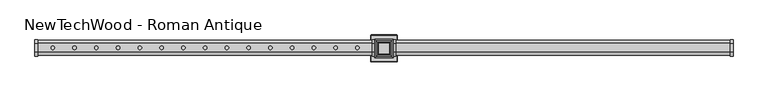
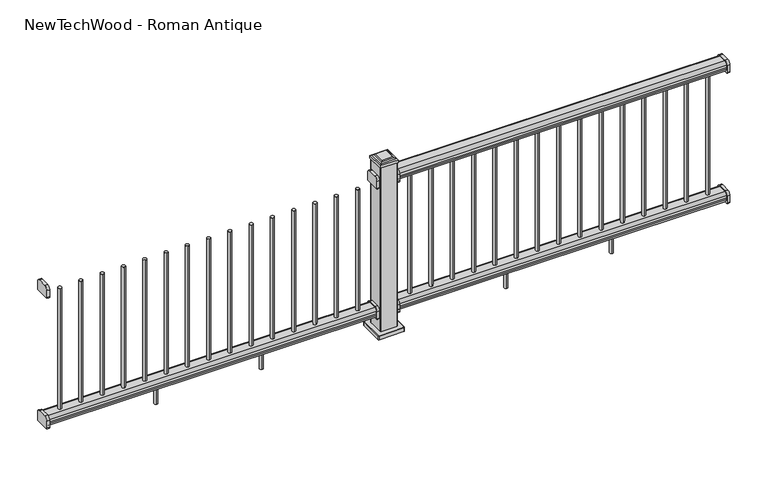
"""IFC4 building model written with IfcOpenShell, lengths in millimetres: railing geometry, NewTechWood - Roman Antique."""

from ifc_helpers import new_model, si_unit, point, frame, frame_2d, origin, place, context, project, spatial, polyline, circle_curve, ellipse_curve, trimmed, segment, composite_curve, outline, extrude, faceted_brep, source, transform, mapped, element, save
from ifc_brep_helpers import plane_surface, cylinder_surface, revolved_surface, advanced_brep


def newtechwood_roman_antique_b1c31fe7(model_context):
    return source(origin(), model_context, "Body", "SolidModel", [
        extrude(outline(composite_curve([segment(polyline([(11496.7392028, 160.1), (11546.1692028, 160.1)]), True, "CONTINUOUS"), segment(trimmed(circle_curve(frame_2d((11546.1692028, 140.42)), 19.68), [point((11546.1692028, 160.1))], [point((11565.8492028, 140.42))], False, "CARTESIAN"), True, "CONTINUOUS"), segment(polyline([(11565.8492028, 140.42), (11565.8492028, 98.95)]), True, "CONTINUOUS"), segment(trimmed(circle_curve(frame_2d((11562.2992028, 98.95)), 3.55), [point((11565.8492028, 98.95))], [point((11562.2992028, 95.4))], False, "CARTESIAN"), True, "CONTINUOUS"), segment(polyline([(11562.2992028, 95.4), (11480.6092028, 95.4)]), True, "CONTINUOUS"), segment(trimmed(circle_curve(frame_2d((11480.6092028, 98.95)), 3.55), [point((11480.6092028, 95.4))], [point((11477.0592028, 98.95))], False, "CARTESIAN"), True, "CONTINUOUS"), segment(polyline([(11477.0592028, 98.95), (11477.0592028, 140.42)]), True, "CONTINUOUS"), segment(trimmed(circle_curve(frame_2d((11496.7392028, 140.42)), 19.68), [point((11477.0592028, 140.42))], [point((11496.7392028, 160.1))], False, "CARTESIAN"), True, "CONTINUOUS")], self_intersect=False)), frame((12576.7458255, 0.0, 0.0), z_axis=(1.0, 0.0, 0.0), x_axis=(0.0, 1.0, 0.0)), (0.0, 0.0, 1.0), 15.0),
        extrude(outline(composite_curve([segment(polyline([(11496.7392028, 160.1), (11546.1692028, 160.1)]), True, "CONTINUOUS"), segment(trimmed(circle_curve(frame_2d((11546.1692028, 140.42)), 19.68), [point((11546.1692028, 160.1))], [point((11565.8492028, 140.42))], False, "CARTESIAN"), True, "CONTINUOUS"), segment(polyline([(11565.8492028, 140.42), (11565.8492028, 98.95)]), True, "CONTINUOUS"), segment(trimmed(circle_curve(frame_2d((11562.2992028, 98.95)), 3.55), [point((11565.8492028, 98.95))], [point((11562.2992028, 95.4))], False, "CARTESIAN"), True, "CONTINUOUS"), segment(polyline([(11562.2992028, 95.4), (11480.6092028, 95.4)]), True, "CONTINUOUS"), segment(trimmed(circle_curve(frame_2d((11480.6092028, 98.95)), 3.55), [point((11480.6092028, 95.4))], [point((11477.0592028, 98.95))], False, "CARTESIAN"), True, "CONTINUOUS"), segment(polyline([(11477.0592028, 98.95), (11477.0592028, 140.42)]), True, "CONTINUOUS"), segment(trimmed(circle_curve(frame_2d((11496.7392028, 140.42)), 19.68), [point((11477.0592028, 140.42))], [point((11496.7392028, 160.1))], False, "CARTESIAN"), True, "CONTINUOUS")], self_intersect=False)), frame((14390.7458255, 0.0, 0.0), z_axis=(1.0, 0.0, 0.0), x_axis=(0.0, 1.0, 0.0)), (0.0, 0.0, 1.0), 15.0),
        extrude(outline(composite_curve([segment(trimmed(circle_curve(frame_2d((11546.1692028, 899.42)), 19.68), [point((11546.1692028, 919.1))], [point((11565.8492028, 899.42))], False, "CARTESIAN"), True, "CONTINUOUS"), segment(polyline([(11565.8492028, 899.42), (11565.8492028, 857.95)]), True, "CONTINUOUS"), segment(trimmed(circle_curve(frame_2d((11562.2992028, 857.95)), 3.55), [point((11565.8492028, 857.95))], [point((11562.2992028, 854.4))], False, "CARTESIAN"), True, "CONTINUOUS"), segment(polyline([(11562.2992028, 854.4), (11480.6092028, 854.4)]), True, "CONTINUOUS"), segment(trimmed(circle_curve(frame_2d((11480.6092028, 857.95)), 3.55), [point((11480.6092028, 854.4))], [point((11477.0592028, 857.95))], False, "CARTESIAN"), True, "CONTINUOUS"), segment(polyline([(11477.0592028, 857.95), (11477.0592028, 899.42)]), True, "CONTINUOUS"), segment(trimmed(circle_curve(frame_2d((11496.7392028, 899.42)), 19.68), [point((11477.0592028, 899.42))], [point((11496.7392028, 919.1))], False, "CARTESIAN"), True, "CONTINUOUS"), segment(polyline([(11496.7392028, 919.1), (11546.1692028, 919.1)]), True, "CONTINUOUS")], self_intersect=False)), frame((12576.7458255, 0.0, 0.0), z_axis=(1.0, 0.0, 0.0), x_axis=(0.0, 1.0, 0.0)), (0.0, 0.0, 1.0), 15.0),
        extrude(outline(composite_curve([segment(trimmed(circle_curve(frame_2d((11546.1692028, 899.42)), 19.68), [point((11546.1692028, 919.1))], [point((11565.8492028, 899.42))], False, "CARTESIAN"), True, "CONTINUOUS"), segment(polyline([(11565.8492028, 899.42), (11565.8492028, 857.95)]), True, "CONTINUOUS"), segment(trimmed(circle_curve(frame_2d((11562.2992028, 857.95)), 3.55), [point((11565.8492028, 857.95))], [point((11562.2992028, 854.4))], False, "CARTESIAN"), True, "CONTINUOUS"), segment(polyline([(11562.2992028, 854.4), (11480.6092028, 854.4)]), True, "CONTINUOUS"), segment(trimmed(circle_curve(frame_2d((11480.6092028, 857.95)), 3.55), [point((11480.6092028, 854.4))], [point((11477.0592028, 857.95))], False, "CARTESIAN"), True, "CONTINUOUS"), segment(polyline([(11477.0592028, 857.95), (11477.0592028, 899.42)]), True, "CONTINUOUS"), segment(trimmed(circle_curve(frame_2d((11496.7392028, 899.42)), 19.68), [point((11477.0592028, 899.42))], [point((11496.7392028, 919.1))], False, "CARTESIAN"), True, "CONTINUOUS"), segment(polyline([(11496.7392028, 919.1), (11546.1692028, 919.1)]), True, "CONTINUOUS")], self_intersect=False)), frame((14390.7458255, 0.0, 0.0), z_axis=(1.0, 0.0, 0.0), x_axis=(0.0, 1.0, 0.0)), (0.0, 0.0, 1.0), 15.0),
        advanced_brep(
        [(13201.745858, 11511.9542028, 127.5), (13201.745858, 11530.9542028, 127.5), (13192.245858, 11521.4542028, 127.5), (13201.745858, 11511.9542028, -0.0239603), (13201.745858, 11530.9542028, -0.0239603), (13192.245858, 11521.4542028, -0.0239603)],
        [
            (0, 1, circle_curve(frame((13201.745858, 11521.4542028, 127.5), z_axis=(0.0, 0.0, 1.0), x_axis=(0.0, 1.0, 0.0)), 9.5)),
            (1, 2, circle_curve(frame((13201.745858, 11521.4542028, 127.5), z_axis=(0.0, 0.0, 1.0), x_axis=(0.0, 1.0, 0.0)), 9.5)),
            (2, 0, circle_curve(frame((13201.745858, 11521.4542028, 127.5), z_axis=(0.0, 0.0, 1.0), x_axis=(0.0, 1.0, 0.0)), 9.5)),
            (0, 3),
            (3, 4, circle_curve(frame((13201.745858, 11521.4542028, -0.0239603), z_axis=(0.0, 0.0, 1.0), x_axis=(0.0, 1.0, 0.0)), 9.5)),
            (4, 1),
            (4, 5, circle_curve(frame((13201.745858, 11521.4542028, -0.0239603), z_axis=(0.0, 0.0, 1.0), x_axis=(0.0, 1.0, 0.0)), 9.5)),
            (5, 3, circle_curve(frame((13201.745858, 11521.4542028, -0.0239603), z_axis=(0.0, 0.0, 1.0), x_axis=(0.0, 1.0, 0.0)), 9.5)),
        ],
        [
            plane_surface(frame((13790.2457931, 11671.4542028, 127.5), z_axis=(0.0, 0.0, 1.0), x_axis=(0.0, -1.0, 0.0))),
            cylinder_surface(frame((13201.745858, 11521.4542028, -0.3192207), z_axis=(0.0, 0.0, 1.0), x_axis=(0.0, 1.0, 0.0)), 9.5),
            plane_surface(frame((13192.245858, 11671.4542028, -0.0239603), z_axis=(0.0, 0.0, -1.0), x_axis=(0.0, -1.0, 0.0))),
        ],
        [
            (0, [[1, 2, 3]]),
            (1, [[4, 5, 6, -1]]),
            (1, [[-4, -3, -2, -6, 7, 8]]),
            (2, [[-5, -8, -7]]),
        ],
    ),
        advanced_brep(
        [(13780.7457931, 11511.9542028, 127.5), (13790.2457931, 11521.4542028, 127.5), (13780.7457931, 11530.9542028, 127.5), (13780.7457931, 11511.9542028, -0.0102232), (13790.2457931, 11521.4542028, -0.0102232), (13780.7457931, 11530.9542028, -0.0102232)],
        [
            (0, 1, circle_curve(frame((13780.7457931, 11521.4542028, 127.5), z_axis=(0.0, 0.0, 1.0), x_axis=(0.0, 1.0, 0.0)), 9.5)),
            (1, 2, circle_curve(frame((13780.7457931, 11521.4542028, 127.5), z_axis=(0.0, 0.0, 1.0), x_axis=(0.0, 1.0, 0.0)), 9.5)),
            (2, 0, circle_curve(frame((13780.7457931, 11521.4542028, 127.5), z_axis=(0.0, 0.0, 1.0), x_axis=(0.0, 1.0, 0.0)), 9.5)),
            (0, 3),
            (3, 4, circle_curve(frame((13780.7457931, 11521.4542028, -0.0102232), z_axis=(0.0, 0.0, 1.0), x_axis=(0.0, 1.0, 0.0)), 9.5)),
            (4, 5, circle_curve(frame((13780.7457931, 11521.4542028, -0.0102232), z_axis=(0.0, 0.0, 1.0), x_axis=(0.0, 1.0, 0.0)), 9.5)),
            (5, 2),
            (5, 3, circle_curve(frame((13780.7457931, 11521.4542028, -0.0102232), z_axis=(0.0, 0.0, 1.0), x_axis=(0.0, 1.0, 0.0)), 9.5)),
        ],
        [
            plane_surface(frame((13790.2457931, 11671.4542028, 127.5), z_axis=(0.0, 0.0, 1.0), x_axis=(0.0, -1.0, 0.0))),
            cylinder_surface(frame((13780.7457931, 11521.4542028, 0.0), z_axis=(0.0, 0.0, 1.0), x_axis=(0.0, 1.0, 0.0)), 9.5),
            plane_surface(frame((13770.7457931, 11671.4542028, -0.0102232), z_axis=(0.0, 0.0, -1.0), x_axis=(0.0, -1.0, 0.0))),
        ],
        [
            (0, [[1, 2, 3]]),
            (1, [[4, 5, 6, 7, -2, -1]]),
            (1, [[-4, -3, -7, 8]]),
            (2, [[-5, -8, -6]]),
        ],
    ),
        extrude(outline(composite_curve([segment(trimmed(circle_curve(frame_2d((13140.5029684, 11521.4542028)), 9.6), [point((13140.5029684, 11531.0542028))], [point((13140.5029684, 11511.8542028))], False, "CARTESIAN"), True, "CONTINUOUS"), segment(trimmed(circle_curve(frame_2d((13140.5029684, 11521.4542028)), 9.6), [point((13140.5029684, 11511.8542028))], [point((13140.5029684, 11531.0542028))], False, "CARTESIAN"), True, "CONTINUOUS")], self_intersect=False)), frame((0.0, 0.0, 155.0), z_axis=(0.0, 0.0, 1.0), x_axis=(1.0, 0.0, 0.0)), (0.0, 0.0, 1.0), 704.1),
        extrude(outline(composite_curve([segment(trimmed(circle_curve(frame_2d((13257.4172541, 11521.4542028)), 9.6), [point((13257.4172541, 11531.0542028))], [point((13257.4172541, 11511.8542028))], False, "CARTESIAN"), True, "CONTINUOUS"), segment(trimmed(circle_curve(frame_2d((13257.4172541, 11521.4542028)), 9.6), [point((13257.4172541, 11511.8542028))], [point((13257.4172541, 11531.0542028))], False, "CARTESIAN"), True, "CONTINUOUS")], self_intersect=False)), frame((0.0, 0.0, 155.0), z_axis=(0.0, 0.0, 1.0), x_axis=(1.0, 0.0, 0.0)), (0.0, 0.0, 1.0), 704.1),
        extrude(outline(composite_curve([segment(trimmed(circle_curve(frame_2d((13374.3315398, 11521.4542028)), 9.6), [point((13374.3315398, 11531.0542028))], [point((13374.3315398, 11511.8542028))], False, "CARTESIAN"), True, "CONTINUOUS"), segment(trimmed(circle_curve(frame_2d((13374.3315398, 11521.4542028)), 9.6), [point((13374.3315398, 11511.8542028))], [point((13374.3315398, 11531.0542028))], False, "CARTESIAN"), True, "CONTINUOUS")], self_intersect=False)), frame((0.0, 0.0, 155.0), z_axis=(0.0, 0.0, 1.0), x_axis=(1.0, 0.0, 0.0)), (0.0, 0.0, 1.0), 704.1),
        extrude(outline(composite_curve([segment(trimmed(circle_curve(frame_2d((13491.2458255, 11521.4542028)), 9.6), [point((13491.2458255, 11531.0542028))], [point((13491.2458255, 11511.8542028))], False, "CARTESIAN"), True, "CONTINUOUS"), segment(trimmed(circle_curve(frame_2d((13491.2458255, 11521.4542028)), 9.6), [point((13491.2458255, 11511.8542028))], [point((13491.2458255, 11531.0542028))], False, "CARTESIAN"), True, "CONTINUOUS")], self_intersect=False)), frame((0.0, 0.0, 155.0), z_axis=(0.0, 0.0, 1.0), x_axis=(1.0, 0.0, 0.0)), (0.0, 0.0, 1.0), 704.1),
        extrude(outline(composite_curve([segment(trimmed(circle_curve(frame_2d((13608.1601112, 11521.4542028)), 9.6), [point((13608.1601112, 11531.0542028))], [point((13608.1601112, 11511.8542028))], False, "CARTESIAN"), True, "CONTINUOUS"), segment(trimmed(circle_curve(frame_2d((13608.1601112, 11521.4542028)), 9.6), [point((13608.1601112, 11511.8542028))], [point((13608.1601112, 11531.0542028))], False, "CARTESIAN"), True, "CONTINUOUS")], self_intersect=False)), frame((0.0, 0.0, 155.0), z_axis=(0.0, 0.0, 1.0), x_axis=(1.0, 0.0, 0.0)), (0.0, 0.0, 1.0), 704.1),
        extrude(outline(composite_curve([segment(trimmed(circle_curve(frame_2d((13725.0743969, 11521.4542028)), 9.6), [point((13725.0743969, 11531.0542028))], [point((13725.0743969, 11511.8542028))], False, "CARTESIAN"), True, "CONTINUOUS"), segment(trimmed(circle_curve(frame_2d((13725.0743969, 11521.4542028)), 9.6), [point((13725.0743969, 11511.8542028))], [point((13725.0743969, 11531.0542028))], False, "CARTESIAN"), True, "CONTINUOUS")], self_intersect=False)), frame((0.0, 0.0, 155.0), z_axis=(0.0, 0.0, 1.0), x_axis=(1.0, 0.0, 0.0)), (0.0, 0.0, 1.0), 704.1),
        extrude(outline(composite_curve([segment(trimmed(circle_curve(frame_2d((13841.9886827, 11521.4542028)), 9.6), [point((13841.9886827, 11531.0542028))], [point((13841.9886827, 11511.8542028))], False, "CARTESIAN"), True, "CONTINUOUS"), segment(trimmed(circle_curve(frame_2d((13841.9886827, 11521.4542028)), 9.6), [point((13841.9886827, 11511.8542028))], [point((13841.9886827, 11531.0542028))], False, "CARTESIAN"), True, "CONTINUOUS")], self_intersect=False)), frame((0.0, 0.0, 155.0), z_axis=(0.0, 0.0, 1.0), x_axis=(1.0, 0.0, 0.0)), (0.0, 0.0, 1.0), 704.1),
        extrude(outline(composite_curve([segment(trimmed(circle_curve(frame_2d((12672.8458255, 11521.4542028)), 9.6), [point((12672.8458255, 11531.0542028))], [point((12672.8458255, 11511.8542028))], False, "CARTESIAN"), True, "CONTINUOUS"), segment(trimmed(circle_curve(frame_2d((12672.8458255, 11521.4542028)), 9.6), [point((12672.8458255, 11511.8542028))], [point((12672.8458255, 11531.0542028))], False, "CARTESIAN"), True, "CONTINUOUS")], self_intersect=False)), frame((0.0, 0.0, 155.0), z_axis=(0.0, 0.0, 1.0), x_axis=(1.0, 0.0, 0.0)), (0.0, 0.0, 1.0), 704.1),
        extrude(outline(composite_curve([segment(trimmed(circle_curve(frame_2d((12789.7601112, 11521.4542028)), 9.6), [point((12789.7601112, 11531.0542028))], [point((12789.7601112, 11511.8542028))], False, "CARTESIAN"), True, "CONTINUOUS"), segment(trimmed(circle_curve(frame_2d((12789.7601112, 11521.4542028)), 9.6), [point((12789.7601112, 11511.8542028))], [point((12789.7601112, 11531.0542028))], False, "CARTESIAN"), True, "CONTINUOUS")], self_intersect=False)), frame((0.0, 0.0, 155.0), z_axis=(0.0, 0.0, 1.0), x_axis=(1.0, 0.0, 0.0)), (0.0, 0.0, 1.0), 704.1),
        extrude(outline(composite_curve([segment(trimmed(circle_curve(frame_2d((12906.6743969, 11521.4542028)), 9.6), [point((12906.6743969, 11531.0542028))], [point((12906.6743969, 11511.8542028))], False, "CARTESIAN"), True, "CONTINUOUS"), segment(trimmed(circle_curve(frame_2d((12906.6743969, 11521.4542028)), 9.6), [point((12906.6743969, 11511.8542028))], [point((12906.6743969, 11531.0542028))], False, "CARTESIAN"), True, "CONTINUOUS")], self_intersect=False)), frame((0.0, 0.0, 155.0), z_axis=(0.0, 0.0, 1.0), x_axis=(1.0, 0.0, 0.0)), (0.0, 0.0, 1.0), 704.1),
        extrude(outline(composite_curve([segment(trimmed(circle_curve(frame_2d((13023.5886827, 11521.4542028)), 9.6), [point((13023.5886827, 11531.0542028))], [point((13023.5886827, 11511.8542028))], False, "CARTESIAN"), True, "CONTINUOUS"), segment(trimmed(circle_curve(frame_2d((13023.5886827, 11521.4542028)), 9.6), [point((13023.5886827, 11511.8542028))], [point((13023.5886827, 11531.0542028))], False, "CARTESIAN"), True, "CONTINUOUS")], self_intersect=False)), frame((0.0, 0.0, 155.0), z_axis=(0.0, 0.0, 1.0), x_axis=(1.0, 0.0, 0.0)), (0.0, 0.0, 1.0), 704.1),
        extrude(outline(composite_curve([segment(trimmed(circle_curve(frame_2d((13958.9029684, 11521.4542028)), 9.6), [point((13958.9029684, 11531.0542028))], [point((13958.9029684, 11511.8542028))], False, "CARTESIAN"), True, "CONTINUOUS"), segment(trimmed(circle_curve(frame_2d((13958.9029684, 11521.4542028)), 9.6), [point((13958.9029684, 11511.8542028))], [point((13958.9029684, 11531.0542028))], False, "CARTESIAN"), True, "CONTINUOUS")], self_intersect=False)), frame((0.0, 0.0, 155.0), z_axis=(0.0, 0.0, 1.0), x_axis=(1.0, 0.0, 0.0)), (0.0, 0.0, 1.0), 704.1),
        extrude(outline(composite_curve([segment(trimmed(circle_curve(frame_2d((14075.8172541, 11521.4542028)), 9.6), [point((14075.8172541, 11531.0542028))], [point((14075.8172541, 11511.8542028))], False, "CARTESIAN"), True, "CONTINUOUS"), segment(trimmed(circle_curve(frame_2d((14075.8172541, 11521.4542028)), 9.6), [point((14075.8172541, 11511.8542028))], [point((14075.8172541, 11531.0542028))], False, "CARTESIAN"), True, "CONTINUOUS")], self_intersect=False)), frame((0.0, 0.0, 155.0), z_axis=(0.0, 0.0, 1.0), x_axis=(1.0, 0.0, 0.0)), (0.0, 0.0, 1.0), 704.1),
        extrude(outline(composite_curve([segment(trimmed(circle_curve(frame_2d((14192.7315398, 11521.4542028)), 9.6), [point((14192.7315398, 11531.0542028))], [point((14192.7315398, 11511.8542028))], False, "CARTESIAN"), True, "CONTINUOUS"), segment(trimmed(circle_curve(frame_2d((14192.7315398, 11521.4542028)), 9.6), [point((14192.7315398, 11511.8542028))], [point((14192.7315398, 11531.0542028))], False, "CARTESIAN"), True, "CONTINUOUS")], self_intersect=False)), frame((0.0, 0.0, 155.0), z_axis=(0.0, 0.0, 1.0), x_axis=(1.0, 0.0, 0.0)), (0.0, 0.0, 1.0), 704.1),
        extrude(outline(composite_curve([segment(trimmed(circle_curve(frame_2d((14309.6458255, 11521.4542028)), 9.6), [point((14309.6458255, 11531.0542028))], [point((14309.6458255, 11511.8542028))], False, "CARTESIAN"), True, "CONTINUOUS"), segment(trimmed(circle_curve(frame_2d((14309.6458255, 11521.4542028)), 9.6), [point((14309.6458255, 11511.8542028))], [point((14309.6458255, 11531.0542028))], False, "CARTESIAN"), True, "CONTINUOUS")], self_intersect=False)), frame((0.0, 0.0, 155.0), z_axis=(0.0, 0.0, 1.0), x_axis=(1.0, 0.0, 0.0)), (0.0, 0.0, 1.0), 704.1),
        extrude(outline(composite_curve([segment(polyline([(11543.636591, 100.0161325), (11499.2718146, 100.0161325)]), True, "CONTINUOUS"), segment(trimmed(circle_curve(frame_2d((11499.2718146, 116.7552917)), 16.7391591), [point((11499.2718146, 100.0161325))], [point((11482.5326554, 116.7552917))], False, "CARTESIAN"), True, "CONTINUOUS"), segment(polyline([(11482.5326554, 116.7552917), (11482.5326554, 126.3278473)]), True, "CONTINUOUS"), segment(trimmed(circle_curve(frame_2d((11469.6196989, 132.6660673)), 14.3846265), [point((11482.5326554, 126.3278473))], [point((11482.0441367, 139.9152621))], True, "CARTESIAN"), True, "CONTINUOUS"), segment(trimmed(circle_curve(frame_2d((11497.612742, 139.9152621)), 15.5686053), [point((11482.0441367, 139.9152621))], [point((11497.612742, 155.4838675))], False, "CARTESIAN"), True, "CONTINUOUS"), segment(polyline([(11497.612742, 155.4838675), (11545.2956636, 155.4838675)]), True, "CONTINUOUS"), segment(trimmed(circle_curve(frame_2d((11545.2956636, 139.9152621)), 15.5686053), [point((11545.2956636, 155.4838675))], [point((11560.8642689, 139.9152621))], False, "CARTESIAN"), True, "CONTINUOUS"), segment(trimmed(circle_curve(frame_2d((11573.2887067, 132.6660673)), 14.3846265), [point((11560.8642689, 139.9152621))], [point((11560.3757501, 126.3278473))], True, "CARTESIAN"), True, "CONTINUOUS"), segment(polyline([(11560.3757501, 126.3278473), (11560.3757501, 116.7552917)]), True, "CONTINUOUS"), segment(trimmed(circle_curve(frame_2d((11543.636591, 116.7552917)), 16.7391591), [point((11560.3757501, 116.7552917))], [point((11543.636591, 100.0161325))], False, "CARTESIAN"), True, "CONTINUOUS")], self_intersect=False)), frame((12591.7458255, 0.0, 0.0), z_axis=(1.0, 0.0, 0.0), x_axis=(0.0, 1.0, 0.0)), (0.0, 0.0, 1.0), 1799.0),
        extrude(outline(composite_curve([segment(polyline([(11543.636591, 859.0161325), (11499.2718146, 859.0161325)]), True, "CONTINUOUS"), segment(trimmed(circle_curve(frame_2d((11499.2718146, 875.7552917)), 16.7391591), [point((11499.2718146, 859.0161325))], [point((11482.5326554, 875.7552917))], False, "CARTESIAN"), True, "CONTINUOUS"), segment(polyline([(11482.5326554, 875.7552917), (11482.5326554, 885.3278473)]), True, "CONTINUOUS"), segment(trimmed(circle_curve(frame_2d((11469.6196989, 891.6660673)), 14.3846265), [point((11482.5326554, 885.3278473))], [point((11482.0441367, 898.9152621))], True, "CARTESIAN"), True, "CONTINUOUS"), segment(trimmed(circle_curve(frame_2d((11497.612742, 898.9152621)), 15.5686053), [point((11482.0441367, 898.9152621))], [point((11497.612742, 914.4838675))], False, "CARTESIAN"), True, "CONTINUOUS"), segment(polyline([(11497.612742, 914.4838675), (11545.2956636, 914.4838675)]), True, "CONTINUOUS"), segment(trimmed(circle_curve(frame_2d((11545.2956636, 898.9152621)), 15.5686053), [point((11545.2956636, 914.4838675))], [point((11560.8642689, 898.9152621))], False, "CARTESIAN"), True, "CONTINUOUS"), segment(trimmed(circle_curve(frame_2d((11573.2887067, 891.6660673)), 14.3846265), [point((11560.8642689, 898.9152621))], [point((11560.3757501, 885.3278473))], True, "CARTESIAN"), True, "CONTINUOUS"), segment(polyline([(11560.3757501, 885.3278473), (11560.3757501, 875.7552917)]), True, "CONTINUOUS"), segment(trimmed(circle_curve(frame_2d((11543.636591, 875.7552917)), 16.7391591), [point((11560.3757501, 875.7552917))], [point((11543.636591, 859.0161325))], False, "CARTESIAN"), True, "CONTINUOUS")], self_intersect=False)), frame((12591.7458255, 0.0, 0.0), z_axis=(1.0, 0.0, 0.0), x_axis=(0.0, 1.0, 0.0)), (0.0, 0.0, 1.0), 1799.0),
        advanced_brep(
        [(12596.8584818, 11447.5944784, 22.5), (12600.0180491, 11450.7540458, 22.5), (12600.0180491, 11585.4340458, 22.5), (12596.8584818, 11588.5936132, 22.5), (12462.1784818, 11588.5936132, 22.5), (12459.0189144, 11585.4340458, 22.5), (12459.0189144, 11450.7540458, 22.5), (12462.1784818, 11447.5944784, 22.5), (12457.0184818, 11585.4340458, 0.0), (12462.1784818, 11590.5940458, 0.0), (12596.8584818, 11590.5940458, 0.0), (12602.0184818, 11585.4340458, 0.0), (12602.0184818, 11450.7540458, 0.0), (12596.8584818, 11445.5940458, 0.0), (12462.1784818, 11445.5940458, 0.0), (12457.0184818, 11450.7540458, 0.0), (12457.0184818, 11450.7540458, 20.4995674), (12457.0184818, 11585.4340458, 20.4995674), (12462.1784818, 11445.5940458, 20.499569), (12596.8584818, 11445.5940458, 20.499569), (12602.0184818, 11450.7540458, 20.4995691), (12602.0184818, 11585.4340458, 20.4995674), (12596.8584818, 11590.5940458, 20.4995692), (12462.1784818, 11590.5940458, 20.4995674)],
        [
            (0, 1, circle_curve(frame((12596.8584818, 11450.7540458, 22.5), z_axis=(0.0, 0.0, 1.0), x_axis=(0.0, -1.0, 0.0)), 3.1595674)),
            (1, 2),
            (2, 3, circle_curve(frame((12596.8584818, 11585.4340458, 22.5), z_axis=(0.0, 0.0, 1.0), x_axis=(1.0, 0.0, 0.0)), 3.1595674)),
            (3, 4),
            (4, 5, circle_curve(frame((12462.1784818, 11585.4340458, 22.5), z_axis=(0.0, 0.0, 1.0), x_axis=(0.0, 1.0, 0.0)), 3.1595674)),
            (5, 6),
            (6, 7, circle_curve(frame((12462.1784818, 11450.7540458, 22.5), z_axis=(0.0, 0.0, 1.0), x_axis=(-1.0, 0.0, 0.0)), 3.1595674)),
            (7, 0),
            (8, 9, circle_curve(frame((12462.1784818, 11585.4340458, 0.0), z_axis=(0.0, 0.0, -1.0), x_axis=(0.0, 1.0, 0.0)), 5.16)),
            (9, 10),
            (10, 11, circle_curve(frame((12596.8584818, 11585.4340458, 0.0), z_axis=(0.0, 0.0, -1.0), x_axis=(0.0, 1.0, 0.0)), 5.16)),
            (11, 12),
            (12, 13, circle_curve(frame((12596.8584818, 11450.7540458, 0.0), z_axis=(0.0, 0.0, -1.0), x_axis=(0.0, 1.0, 0.0)), 5.16)),
            (13, 14),
            (14, 15, circle_curve(frame((12462.1784818, 11450.7540458, 0.0), z_axis=(0.0, 0.0, -1.0), x_axis=(0.0, 1.0, 0.0)), 5.16)),
            (15, 8),
            (15, 16),
            (16, 17),
            (17, 8),
            (14, 18),
            (18, 16, circle_curve(frame((12462.1784818, 11450.7540458, 20.4995674), z_axis=(0.0, 0.0, -1.0), x_axis=(0.0, 1.0, 0.0)), 5.16)),
            (13, 19),
            (19, 18),
            (12, 20),
            (20, 19, circle_curve(frame((12596.8584818, 11450.7540458, 20.4995674), z_axis=(0.0, 0.0, -1.0), x_axis=(0.0, 1.0, 0.0)), 5.16)),
            (11, 21),
            (21, 20),
            (10, 22),
            (22, 21, circle_curve(frame((12596.8584818, 11585.4340458, 20.4995674), z_axis=(0.0, 0.0, -1.0), x_axis=(0.0, 1.0, 0.0)), 5.16)),
            (9, 23),
            (23, 22),
            (17, 23, circle_curve(frame((12462.1784818, 11585.4340458, 20.4995674), z_axis=(0.0, 0.0, -1.0), x_axis=(0.0, 1.0, 0.0)), 5.16)),
            (20, 1, circle_curve(frame((12600.0180491, 11450.7540458, 20.4995674), z_axis=(0.0, -1.0, 0.0), x_axis=(-1.0, 0.0, 0.0)), 2.0004326)),
            (0, 19, circle_curve(frame((12596.8584818, 11447.5944784, 20.4995674), z_axis=(1.0, 0.0, 0.0), x_axis=(0.0, 1.0, 0.0)), 2.0004326)),
            (21, 2, circle_curve(frame((12600.0180491, 11585.4340458, 20.4995674), z_axis=(0.0, -1.0, 0.0), x_axis=(-1.0, 0.0, 0.0)), 2.0004326)),
            (22, 3, circle_curve(frame((12596.8584818, 11588.5936132, 20.4995674), z_axis=(1.0, 0.0, 0.0), x_axis=(0.0, -1.0, 0.0)), 2.0004326)),
            (23, 4, circle_curve(frame((12462.1784818, 11588.5936132, 20.4995674), z_axis=(1.0, 0.0, 0.0), x_axis=(0.0, -1.0, 0.0)), 2.0004326)),
            (17, 5, circle_curve(frame((12459.0189144, 11585.4340458, 20.4995674), z_axis=(0.0, 1.0, 0.0), x_axis=(1.0, 0.0, 0.0)), 2.0004326)),
            (16, 6, circle_curve(frame((12459.0189144, 11450.7540458, 20.4995674), z_axis=(0.0, 1.0, 0.0), x_axis=(1.0, 0.0, 0.0)), 2.0004326)),
            (18, 7, circle_curve(frame((12462.1784818, 11447.5944784, 20.4995674), z_axis=(-1.0, 0.0, 0.0), x_axis=(0.0, 1.0, 0.0)), 2.0004326)),
        ],
        [
            plane_surface(frame((12457.0184818, 11558.658052, 22.5), z_axis=(0.0, 0.0, 1.0), x_axis=(0.0, -1.0, 0.0))),
            plane_surface(frame((12457.0184818, 11558.658052, 0.0), z_axis=(0.0, 0.0, -1.0), x_axis=(0.0, 1.0, 0.0))),
            plane_surface(frame((12457.0184818, 11585.4340458, 22.5), z_axis=(-1.0, 0.0, 0.0), x_axis=(0.0, 0.0, -1.0))),
            cylinder_surface(frame((12462.1784818, 11450.7540458, 0.0), z_axis=(0.0, 0.0, 1.0), x_axis=(0.0, 1.0, 0.0)), 5.16),
            plane_surface(frame((12462.1784818, 11445.5940458, 22.5), z_axis=(0.0, -1.0, 0.0), x_axis=(0.0, 0.0, -1.0))),
            cylinder_surface(frame((12596.8584818, 11450.7540458, 0.0), z_axis=(0.0, 0.0, 1.0), x_axis=(0.0, 1.0, 0.0)), 5.16),
            plane_surface(frame((12602.0184818, 11450.7540458, 22.5), z_axis=(1.0, 0.0, 0.0), x_axis=(0.0, 0.0, -1.0))),
            cylinder_surface(frame((12596.8584818, 11585.4340458, 0.0), z_axis=(0.0, 0.0, 1.0), x_axis=(0.0, 1.0, 0.0)), 5.16),
            plane_surface(frame((12596.8584818, 11590.5940458, 22.5), z_axis=(0.0, 1.0, 0.0), x_axis=(0.0, 0.0, -1.0))),
            cylinder_surface(frame((12462.1784818, 11585.4340458, 0.0), z_axis=(0.0, 0.0, 1.0), x_axis=(0.0, 1.0, 0.0)), 5.16),
            revolved_surface(trimmed(ellipse_curve(frame((12596.8584818, 11447.5944784, 20.4995674), z_axis=(-1.0, 0.0, 0.0), x_axis=(0.0, 1.0, 0.0)), 2.0004326, 2.0004326), [point((12596.8584818, 11445.5940458, 20.4995674))], [point((12596.8584818, 11447.5944784, 22.5))], True, "CARTESIAN"), (12596.8584818, 11450.7540458, 22.5), (0.0, 0.0, 1.0)),
            cylinder_surface(frame((12600.0180491, 11450.7540458, 20.4995674), z_axis=(0.0, 1.0, 0.0), x_axis=(-1.0, 0.0, 0.0)), 2.0004326),
            revolved_surface(trimmed(ellipse_curve(frame((12600.0180491, 11585.4340458, 20.4995674), z_axis=(0.0, -1.0, 0.0), x_axis=(-1.0, 0.0, 0.0)), 2.0004326, 2.0004326), [point((12602.0184818, 11585.4340458, 20.4995674))], [point((12600.0180491, 11585.4340458, 22.5))], True, "CARTESIAN"), (12596.8584818, 11585.4340458, 22.5), (0.0, 0.0, 1.0)),
            cylinder_surface(frame((12596.8584818, 11588.5936132, 20.4995674), z_axis=(-1.0, 0.0, 0.0), x_axis=(0.0, -1.0, 0.0)), 2.0004326),
            revolved_surface(trimmed(ellipse_curve(frame((12462.1784818, 11588.5936132, 20.4995674), z_axis=(1.0, 0.0, 0.0), x_axis=(0.0, -1.0, 0.0)), 2.0004326, 2.0004326), [point((12462.1784818, 11590.5940458, 20.4995674))], [point((12462.1784818, 11588.5936132, 22.5))], True, "CARTESIAN"), (12462.1784818, 11585.4340458, 22.5), (0.0, 0.0, 1.0)),
            cylinder_surface(frame((12459.0189144, 11585.4340458, 20.4995674), z_axis=(0.0, -1.0, 0.0), x_axis=(1.0, 0.0, 0.0)), 2.0004326),
            revolved_surface(trimmed(ellipse_curve(frame((12459.0189144, 11450.7540458, 20.4995674), z_axis=(0.0, 1.0, 0.0), x_axis=(1.0, 0.0, 0.0)), 2.0004326, 2.0004326), [point((12457.0184818, 11450.7540458, 20.4995674))], [point((12459.0189144, 11450.7540458, 22.5))], True, "CARTESIAN"), (12462.1784818, 11450.7540458, 22.5), (0.0, 0.0, 1.0)),
            cylinder_surface(frame((12462.1784818, 11447.5944784, 20.4995674), z_axis=(1.0, 0.0, 0.0), x_axis=(0.0, 1.0, 0.0)), 2.0004326),
        ],
        [
            (0, [[1, 2, 3, 4, 5, 6, 7, 8]]),
            (1, [[9, 10, 11, 12, 13, 14, 15, 16]]),
            (2, [[-16, 17, 18, 19]]),
            (3, [[-15, 20, 21, -17]]),
            (4, [[-14, 22, 23, -20]]),
            (5, [[-13, 24, 25, -22]]),
            (6, [[-12, 26, 27, -24]]),
            (7, [[-11, 28, 29, -26]]),
            (8, [[-10, 30, 31, -28]]),
            (9, [[-9, -19, 32, -30]]),
            (10, [[33, -1, 34, -25]]),
            (11, [[-33, -27, 35, -2]]),
            (12, [[-35, -29, 36, -3]]),
            (13, [[-36, -31, 37, -4]]),
            (14, [[-37, -32, 38, -5]]),
            (15, [[-38, -18, 39, -6]]),
            (16, [[-39, -21, 40, -7]]),
            (17, [[-34, -8, -40, -23]]),
        ],
    ),
        faceted_brep([(12578.5684818, 11469.0440458, 990.769699), (12578.5684818, 11469.0440458, 976.139699), (12578.5684818, 11567.1440458, 976.139699), (12578.5684818, 11567.1440458, 990.769699), (12574.5358057, 11473.0767219, 996.0825536), (12574.5358057, 11563.1113697, 996.0825536), (12565.310698, 11482.3018295, 1000.5958992), (12565.310698, 11553.886262, 1000.5958992), (12560.8139306, 11486.7985969, 1004.4), (12560.8139306, 11549.3894946, 1004.4), (12480.4684818, 11567.1440458, 976.139699), (12480.4684818, 11567.1440458, 990.769699), (12484.5011579, 11563.1113697, 996.0825536), (12493.7262655, 11553.886262, 1000.5958992), (12498.2230329, 11549.3894946, 1004.4), (12480.4684818, 11469.0440458, 976.139699), (12480.4684818, 11469.0440458, 990.769699), (12484.5011579, 11473.0767219, 996.0825536), (12493.7262655, 11482.3018295, 1000.5958992), (12498.2230329, 11486.7985969, 1004.4)], [[[0, 1, 2, 3]], [[4, 0, 3, 5]], [[6, 4, 5, 7]], [[8, 6, 7, 9]], [[3, 2, 10, 11]], [[5, 3, 11, 12]], [[7, 5, 12, 13]], [[9, 7, 13, 14]], [[11, 10, 15, 16]], [[12, 11, 16, 17]], [[13, 12, 17, 18]], [[14, 13, 18, 19]], [[16, 15, 1, 0]], [[17, 16, 0, 4]], [[18, 17, 4, 6]], [[19, 18, 6, 8]], [[9, 14, 19, 8]], [[1, 15, 10, 2]]]),
        extrude(outline(composite_curve([segment(trimmed(circle_curve(frame_2d((12485.9284818, 11474.5040458)), 3.61), [point((12485.9284818, 11470.8940458))], [point((12482.3184818, 11474.5040458))], False, "CARTESIAN"), True, "CONTINUOUS"), segment(polyline([(12482.3184818, 11474.5040458), (12482.3184818, 11561.6840458)]), True, "CONTINUOUS"), segment(trimmed(circle_curve(frame_2d((12485.9284818, 11561.6840458)), 3.61), [point((12482.3184818, 11561.6840458))], [point((12485.9284818, 11565.2940458))], False, "CARTESIAN"), True, "CONTINUOUS"), segment(polyline([(12485.9284818, 11565.2940458), (12573.1084818, 11565.2940458)]), True, "CONTINUOUS"), segment(trimmed(circle_curve(frame_2d((12573.1084818, 11561.6840458)), 3.61), [point((12573.1084818, 11565.2940458))], [point((12576.7184818, 11561.6840458))], False, "CARTESIAN"), True, "CONTINUOUS"), segment(polyline([(12576.7184818, 11561.6840458), (12576.7184818, 11474.5040458)]), True, "CONTINUOUS"), segment(trimmed(circle_curve(frame_2d((12573.1084818, 11474.5040458)), 3.61), [point((12576.7184818, 11474.5040458))], [point((12573.1084818, 11470.8940458))], False, "CARTESIAN"), True, "CONTINUOUS"), segment(polyline([(12573.1084818, 11470.8940458), (12485.9284818, 11470.8940458)]), True, "CONTINUOUS")], self_intersect=False)), frame((0.0, 0.0, 22.5), z_axis=(0.0, 0.0, 1.0), x_axis=(1.0, 0.0, 0.0)), (0.0, 0.0, 1.0), 953.639699),
        extrude(outline(composite_curve([segment(polyline([(11496.7392028, 160.1), (11546.1692028, 160.1)]), True, "CONTINUOUS"), segment(trimmed(circle_curve(frame_2d((11546.1692028, 140.42)), 19.68), [point((11546.1692028, 160.1))], [point((11565.8492028, 140.42))], False, "CARTESIAN"), True, "CONTINUOUS"), segment(polyline([(11565.8492028, 140.42), (11565.8492028, 98.95)]), True, "CONTINUOUS"), segment(trimmed(circle_curve(frame_2d((11562.2992028, 98.95)), 3.55), [point((11565.8492028, 98.95))], [point((11562.2992028, 95.4))], False, "CARTESIAN"), True, "CONTINUOUS"), segment(polyline([(11562.2992028, 95.4), (11480.6092028, 95.4)]), True, "CONTINUOUS"), segment(trimmed(circle_curve(frame_2d((11480.6092028, 98.95)), 3.55), [point((11480.6092028, 95.4))], [point((11477.0592028, 98.95))], False, "CARTESIAN"), True, "CONTINUOUS"), segment(polyline([(11477.0592028, 98.95), (11477.0592028, 140.42)]), True, "CONTINUOUS"), segment(trimmed(circle_curve(frame_2d((11496.7392028, 140.42)), 19.68), [point((11477.0592028, 140.42))], [point((11496.7392028, 160.1))], False, "CARTESIAN"), True, "CONTINUOUS")], self_intersect=False)), frame((10653.291138, 0.0, 0.0), z_axis=(1.0, 0.0, 0.0), x_axis=(0.0, 1.0, 0.0)), (0.0, 0.0, 1.0), 15.0),
        extrude(outline(composite_curve([segment(polyline([(11496.7392028, 160.1), (11546.1692028, 160.1)]), True, "CONTINUOUS"), segment(trimmed(circle_curve(frame_2d((11546.1692028, 140.42)), 19.68), [point((11546.1692028, 160.1))], [point((11565.8492028, 140.42))], False, "CARTESIAN"), True, "CONTINUOUS"), segment(polyline([(11565.8492028, 140.42), (11565.8492028, 98.95)]), True, "CONTINUOUS"), segment(trimmed(circle_curve(frame_2d((11562.2992028, 98.95)), 3.55), [point((11565.8492028, 98.95))], [point((11562.2992028, 95.4))], False, "CARTESIAN"), True, "CONTINUOUS"), segment(polyline([(11562.2992028, 95.4), (11480.6092028, 95.4)]), True, "CONTINUOUS"), segment(trimmed(circle_curve(frame_2d((11480.6092028, 98.95)), 3.55), [point((11480.6092028, 95.4))], [point((11477.0592028, 98.95))], False, "CARTESIAN"), True, "CONTINUOUS"), segment(polyline([(11477.0592028, 98.95), (11477.0592028, 140.42)]), True, "CONTINUOUS"), segment(trimmed(circle_curve(frame_2d((11496.7392028, 140.42)), 19.68), [point((11477.0592028, 140.42))], [point((11496.7392028, 160.1))], False, "CARTESIAN"), True, "CONTINUOUS")], self_intersect=False)), frame((12467.291138, 0.0, 0.0), z_axis=(1.0, 0.0, 0.0), x_axis=(0.0, 1.0, 0.0)), (0.0, 0.0, 1.0), 15.0),
        extrude(outline(composite_curve([segment(trimmed(circle_curve(frame_2d((11546.1692028, 899.42)), 19.68), [point((11546.1692028, 919.1))], [point((11565.8492028, 899.42))], False, "CARTESIAN"), True, "CONTINUOUS"), segment(polyline([(11565.8492028, 899.42), (11565.8492028, 857.95)]), True, "CONTINUOUS"), segment(trimmed(circle_curve(frame_2d((11562.2992028, 857.95)), 3.55), [point((11565.8492028, 857.95))], [point((11562.2992028, 854.4))], False, "CARTESIAN"), True, "CONTINUOUS"), segment(polyline([(11562.2992028, 854.4), (11480.6092028, 854.4)]), True, "CONTINUOUS"), segment(trimmed(circle_curve(frame_2d((11480.6092028, 857.95)), 3.55), [point((11480.6092028, 854.4))], [point((11477.0592028, 857.95))], False, "CARTESIAN"), True, "CONTINUOUS"), segment(polyline([(11477.0592028, 857.95), (11477.0592028, 899.42)]), True, "CONTINUOUS"), segment(trimmed(circle_curve(frame_2d((11496.7392028, 899.42)), 19.68), [point((11477.0592028, 899.42))], [point((11496.7392028, 919.1))], False, "CARTESIAN"), True, "CONTINUOUS"), segment(polyline([(11496.7392028, 919.1), (11546.1692028, 919.1)]), True, "CONTINUOUS")], self_intersect=False)), frame((10653.291138, 0.0, 0.0), z_axis=(1.0, 0.0, 0.0), x_axis=(0.0, 1.0, 0.0)), (0.0, 0.0, 1.0), 15.0),
        extrude(outline(composite_curve([segment(trimmed(circle_curve(frame_2d((11546.1692028, 899.42)), 19.68), [point((11546.1692028, 919.1))], [point((11565.8492028, 899.42))], False, "CARTESIAN"), True, "CONTINUOUS"), segment(polyline([(11565.8492028, 899.42), (11565.8492028, 857.95)]), True, "CONTINUOUS"), segment(trimmed(circle_curve(frame_2d((11562.2992028, 857.95)), 3.55), [point((11565.8492028, 857.95))], [point((11562.2992028, 854.4))], False, "CARTESIAN"), True, "CONTINUOUS"), segment(polyline([(11562.2992028, 854.4), (11480.6092028, 854.4)]), True, "CONTINUOUS"), segment(trimmed(circle_curve(frame_2d((11480.6092028, 857.95)), 3.55), [point((11480.6092028, 854.4))], [point((11477.0592028, 857.95))], False, "CARTESIAN"), True, "CONTINUOUS"), segment(polyline([(11477.0592028, 857.95), (11477.0592028, 899.42)]), True, "CONTINUOUS"), segment(trimmed(circle_curve(frame_2d((11496.7392028, 899.42)), 19.68), [point((11477.0592028, 899.42))], [point((11496.7392028, 919.1))], False, "CARTESIAN"), True, "CONTINUOUS"), segment(polyline([(11496.7392028, 919.1), (11546.1692028, 919.1)]), True, "CONTINUOUS")], self_intersect=False)), frame((12467.291138, 0.0, 0.0), z_axis=(1.0, 0.0, 0.0), x_axis=(0.0, 1.0, 0.0)), (0.0, 0.0, 1.0), 15.0),
        advanced_brep(
        [(11278.2911705, 11511.9542028, 127.5), (11278.2911705, 11530.9542028, 127.5), (11268.7911705, 11521.4542028, 127.5), (11278.2911705, 11511.9542028, -0.0239603), (11278.2911705, 11530.9542028, -0.0239603), (11268.7911705, 11521.4542028, -0.0239603)],
        [
            (0, 1, circle_curve(frame((11278.2911705, 11521.4542028, 127.5), z_axis=(0.0, 0.0, 1.0), x_axis=(0.0, 1.0, 0.0)), 9.5)),
            (1, 2, circle_curve(frame((11278.2911705, 11521.4542028, 127.5), z_axis=(0.0, 0.0, 1.0), x_axis=(0.0, 1.0, 0.0)), 9.5)),
            (2, 0, circle_curve(frame((11278.2911705, 11521.4542028, 127.5), z_axis=(0.0, 0.0, 1.0), x_axis=(0.0, 1.0, 0.0)), 9.5)),
            (0, 3),
            (3, 4, circle_curve(frame((11278.2911705, 11521.4542028, -0.0239603), z_axis=(0.0, 0.0, 1.0), x_axis=(0.0, 1.0, 0.0)), 9.5)),
            (4, 1),
            (4, 5, circle_curve(frame((11278.2911705, 11521.4542028, -0.0239603), z_axis=(0.0, 0.0, 1.0), x_axis=(0.0, 1.0, 0.0)), 9.5)),
            (5, 3, circle_curve(frame((11278.2911705, 11521.4542028, -0.0239603), z_axis=(0.0, 0.0, 1.0), x_axis=(0.0, 1.0, 0.0)), 9.5)),
        ],
        [
            plane_surface(frame((11866.7911056, 11671.4542028, 127.5), z_axis=(0.0, 0.0, 1.0), x_axis=(0.0, -1.0, 0.0))),
            cylinder_surface(frame((11278.2911705, 11521.4542028, -0.3192207), z_axis=(0.0, 0.0, 1.0), x_axis=(0.0, 1.0, 0.0)), 9.5),
            plane_surface(frame((11268.7911705, 11671.4542028, -0.0239603), z_axis=(0.0, 0.0, -1.0), x_axis=(0.0, -1.0, 0.0))),
        ],
        [
            (0, [[1, 2, 3]]),
            (1, [[4, 5, 6, -1]]),
            (1, [[-4, -3, -2, -6, 7, 8]]),
            (2, [[-5, -8, -7]]),
        ],
    ),
        advanced_brep(
        [(11857.2911056, 11511.9542028, 127.5), (11866.7911056, 11521.4542028, 127.5), (11857.2911056, 11530.9542028, 127.5), (11857.2911056, 11511.9542028, -0.0102232), (11866.7911056, 11521.4542028, -0.0102232), (11857.2911056, 11530.9542028, -0.0102232)],
        [
            (0, 1, circle_curve(frame((11857.2911056, 11521.4542028, 127.5), z_axis=(0.0, 0.0, 1.0), x_axis=(0.0, 1.0, 0.0)), 9.5)),
            (1, 2, circle_curve(frame((11857.2911056, 11521.4542028, 127.5), z_axis=(0.0, 0.0, 1.0), x_axis=(0.0, 1.0, 0.0)), 9.5)),
            (2, 0, circle_curve(frame((11857.2911056, 11521.4542028, 127.5), z_axis=(0.0, 0.0, 1.0), x_axis=(0.0, 1.0, 0.0)), 9.5)),
            (0, 3),
            (3, 4, circle_curve(frame((11857.2911056, 11521.4542028, -0.0102232), z_axis=(0.0, 0.0, 1.0), x_axis=(0.0, 1.0, 0.0)), 9.5)),
            (4, 5, circle_curve(frame((11857.2911056, 11521.4542028, -0.0102232), z_axis=(0.0, 0.0, 1.0), x_axis=(0.0, 1.0, 0.0)), 9.5)),
            (5, 2),
            (5, 3, circle_curve(frame((11857.2911056, 11521.4542028, -0.0102232), z_axis=(0.0, 0.0, 1.0), x_axis=(0.0, 1.0, 0.0)), 9.5)),
        ],
        [
            plane_surface(frame((11866.7911056, 11671.4542028, 127.5), z_axis=(0.0, 0.0, 1.0), x_axis=(0.0, -1.0, 0.0))),
            cylinder_surface(frame((11857.2911056, 11521.4542028, 0.0), z_axis=(0.0, 0.0, 1.0), x_axis=(0.0, 1.0, 0.0)), 9.5),
            plane_surface(frame((11847.2911056, 11671.4542028, -0.0102232), z_axis=(0.0, 0.0, -1.0), x_axis=(0.0, -1.0, 0.0))),
        ],
        [
            (0, [[1, 2, 3]]),
            (1, [[4, 5, 6, 7, -2, -1]]),
            (1, [[-4, -3, -7, 8]]),
            (2, [[-5, -8, -6]]),
        ],
    ),
        extrude(outline(composite_curve([segment(trimmed(circle_curve(frame_2d((11217.0482809, 11521.4542028)), 9.6), [point((11217.0482809, 11531.0542028))], [point((11217.0482809, 11511.8542028))], False, "CARTESIAN"), True, "CONTINUOUS"), segment(trimmed(circle_curve(frame_2d((11217.0482809, 11521.4542028)), 9.6), [point((11217.0482809, 11511.8542028))], [point((11217.0482809, 11531.0542028))], False, "CARTESIAN"), True, "CONTINUOUS")], self_intersect=False)), frame((0.0, 0.0, 155.0), z_axis=(0.0, 0.0, 1.0), x_axis=(1.0, 0.0, 0.0)), (0.0, 0.0, 1.0), 704.1),
        extrude(outline(composite_curve([segment(trimmed(circle_curve(frame_2d((11333.9625666, 11521.4542028)), 9.6), [point((11333.9625666, 11531.0542028))], [point((11333.9625666, 11511.8542028))], False, "CARTESIAN"), True, "CONTINUOUS"), segment(trimmed(circle_curve(frame_2d((11333.9625666, 11521.4542028)), 9.6), [point((11333.9625666, 11511.8542028))], [point((11333.9625666, 11531.0542028))], False, "CARTESIAN"), True, "CONTINUOUS")], self_intersect=False)), frame((0.0, 0.0, 155.0), z_axis=(0.0, 0.0, 1.0), x_axis=(1.0, 0.0, 0.0)), (0.0, 0.0, 1.0), 704.1),
        extrude(outline(composite_curve([segment(trimmed(circle_curve(frame_2d((11450.8768523, 11521.4542028)), 9.6), [point((11450.8768523, 11531.0542028))], [point((11450.8768523, 11511.8542028))], False, "CARTESIAN"), True, "CONTINUOUS"), segment(trimmed(circle_curve(frame_2d((11450.8768523, 11521.4542028)), 9.6), [point((11450.8768523, 11511.8542028))], [point((11450.8768523, 11531.0542028))], False, "CARTESIAN"), True, "CONTINUOUS")], self_intersect=False)), frame((0.0, 0.0, 155.0), z_axis=(0.0, 0.0, 1.0), x_axis=(1.0, 0.0, 0.0)), (0.0, 0.0, 1.0), 704.1),
        extrude(outline(composite_curve([segment(trimmed(circle_curve(frame_2d((11567.791138, 11521.4542028)), 9.6), [point((11567.791138, 11531.0542028))], [point((11567.791138, 11511.8542028))], False, "CARTESIAN"), True, "CONTINUOUS"), segment(trimmed(circle_curve(frame_2d((11567.791138, 11521.4542028)), 9.6), [point((11567.791138, 11511.8542028))], [point((11567.791138, 11531.0542028))], False, "CARTESIAN"), True, "CONTINUOUS")], self_intersect=False)), frame((0.0, 0.0, 155.0), z_axis=(0.0, 0.0, 1.0), x_axis=(1.0, 0.0, 0.0)), (0.0, 0.0, 1.0), 704.1),
        extrude(outline(composite_curve([segment(trimmed(circle_curve(frame_2d((11684.7054237, 11521.4542028)), 9.6), [point((11684.7054237, 11531.0542028))], [point((11684.7054237, 11511.8542028))], False, "CARTESIAN"), True, "CONTINUOUS"), segment(trimmed(circle_curve(frame_2d((11684.7054237, 11521.4542028)), 9.6), [point((11684.7054237, 11511.8542028))], [point((11684.7054237, 11531.0542028))], False, "CARTESIAN"), True, "CONTINUOUS")], self_intersect=False)), frame((0.0, 0.0, 155.0), z_axis=(0.0, 0.0, 1.0), x_axis=(1.0, 0.0, 0.0)), (0.0, 0.0, 1.0), 704.1),
        extrude(outline(composite_curve([segment(trimmed(circle_curve(frame_2d((11801.6197094, 11521.4542028)), 9.6), [point((11801.6197094, 11531.0542028))], [point((11801.6197094, 11511.8542028))], False, "CARTESIAN"), True, "CONTINUOUS"), segment(trimmed(circle_curve(frame_2d((11801.6197094, 11521.4542028)), 9.6), [point((11801.6197094, 11511.8542028))], [point((11801.6197094, 11531.0542028))], False, "CARTESIAN"), True, "CONTINUOUS")], self_intersect=False)), frame((0.0, 0.0, 155.0), z_axis=(0.0, 0.0, 1.0), x_axis=(1.0, 0.0, 0.0)), (0.0, 0.0, 1.0), 704.1),
        extrude(outline(composite_curve([segment(trimmed(circle_curve(frame_2d((11918.5339952, 11521.4542028)), 9.6), [point((11918.5339952, 11531.0542028))], [point((11918.5339952, 11511.8542028))], False, "CARTESIAN"), True, "CONTINUOUS"), segment(trimmed(circle_curve(frame_2d((11918.5339952, 11521.4542028)), 9.6), [point((11918.5339952, 11511.8542028))], [point((11918.5339952, 11531.0542028))], False, "CARTESIAN"), True, "CONTINUOUS")], self_intersect=False)), frame((0.0, 0.0, 155.0), z_axis=(0.0, 0.0, 1.0), x_axis=(1.0, 0.0, 0.0)), (0.0, 0.0, 1.0), 704.1),
        extrude(outline(composite_curve([segment(trimmed(circle_curve(frame_2d((10749.391138, 11521.4542028)), 9.6), [point((10749.391138, 11531.0542028))], [point((10749.391138, 11511.8542028))], False, "CARTESIAN"), True, "CONTINUOUS"), segment(trimmed(circle_curve(frame_2d((10749.391138, 11521.4542028)), 9.6), [point((10749.391138, 11511.8542028))], [point((10749.391138, 11531.0542028))], False, "CARTESIAN"), True, "CONTINUOUS")], self_intersect=False)), frame((0.0, 0.0, 155.0), z_axis=(0.0, 0.0, 1.0), x_axis=(1.0, 0.0, 0.0)), (0.0, 0.0, 1.0), 704.1),
        extrude(outline(composite_curve([segment(trimmed(circle_curve(frame_2d((10866.3054237, 11521.4542028)), 9.6), [point((10866.3054237, 11531.0542028))], [point((10866.3054237, 11511.8542028))], False, "CARTESIAN"), True, "CONTINUOUS"), segment(trimmed(circle_curve(frame_2d((10866.3054237, 11521.4542028)), 9.6), [point((10866.3054237, 11511.8542028))], [point((10866.3054237, 11531.0542028))], False, "CARTESIAN"), True, "CONTINUOUS")], self_intersect=False)), frame((0.0, 0.0, 155.0), z_axis=(0.0, 0.0, 1.0), x_axis=(1.0, 0.0, 0.0)), (0.0, 0.0, 1.0), 704.1),
        extrude(outline(composite_curve([segment(trimmed(circle_curve(frame_2d((10983.2197094, 11521.4542028)), 9.6), [point((10983.2197094, 11531.0542028))], [point((10983.2197094, 11511.8542028))], False, "CARTESIAN"), True, "CONTINUOUS"), segment(trimmed(circle_curve(frame_2d((10983.2197094, 11521.4542028)), 9.6), [point((10983.2197094, 11511.8542028))], [point((10983.2197094, 11531.0542028))], False, "CARTESIAN"), True, "CONTINUOUS")], self_intersect=False)), frame((0.0, 0.0, 155.0), z_axis=(0.0, 0.0, 1.0), x_axis=(1.0, 0.0, 0.0)), (0.0, 0.0, 1.0), 704.1),
        extrude(outline(composite_curve([segment(trimmed(circle_curve(frame_2d((11100.1339952, 11521.4542028)), 9.6), [point((11100.1339952, 11531.0542028))], [point((11100.1339952, 11511.8542028))], False, "CARTESIAN"), True, "CONTINUOUS"), segment(trimmed(circle_curve(frame_2d((11100.1339952, 11521.4542028)), 9.6), [point((11100.1339952, 11511.8542028))], [point((11100.1339952, 11531.0542028))], False, "CARTESIAN"), True, "CONTINUOUS")], self_intersect=False)), frame((0.0, 0.0, 155.0), z_axis=(0.0, 0.0, 1.0), x_axis=(1.0, 0.0, 0.0)), (0.0, 0.0, 1.0), 704.1),
        extrude(outline(composite_curve([segment(trimmed(circle_curve(frame_2d((12035.4482809, 11521.4542028)), 9.6), [point((12035.4482809, 11531.0542028))], [point((12035.4482809, 11511.8542028))], False, "CARTESIAN"), True, "CONTINUOUS"), segment(trimmed(circle_curve(frame_2d((12035.4482809, 11521.4542028)), 9.6), [point((12035.4482809, 11511.8542028))], [point((12035.4482809, 11531.0542028))], False, "CARTESIAN"), True, "CONTINUOUS")], self_intersect=False)), frame((0.0, 0.0, 155.0), z_axis=(0.0, 0.0, 1.0), x_axis=(1.0, 0.0, 0.0)), (0.0, 0.0, 1.0), 704.1),
        extrude(outline(composite_curve([segment(trimmed(circle_curve(frame_2d((12152.3625666, 11521.4542028)), 9.6), [point((12152.3625666, 11531.0542028))], [point((12152.3625666, 11511.8542028))], False, "CARTESIAN"), True, "CONTINUOUS"), segment(trimmed(circle_curve(frame_2d((12152.3625666, 11521.4542028)), 9.6), [point((12152.3625666, 11511.8542028))], [point((12152.3625666, 11531.0542028))], False, "CARTESIAN"), True, "CONTINUOUS")], self_intersect=False)), frame((0.0, 0.0, 155.0), z_axis=(0.0, 0.0, 1.0), x_axis=(1.0, 0.0, 0.0)), (0.0, 0.0, 1.0), 704.1),
        extrude(outline(composite_curve([segment(trimmed(circle_curve(frame_2d((12269.2768523, 11521.4542028)), 9.6), [point((12269.2768523, 11531.0542028))], [point((12269.2768523, 11511.8542028))], False, "CARTESIAN"), True, "CONTINUOUS"), segment(trimmed(circle_curve(frame_2d((12269.2768523, 11521.4542028)), 9.6), [point((12269.2768523, 11511.8542028))], [point((12269.2768523, 11531.0542028))], False, "CARTESIAN"), True, "CONTINUOUS")], self_intersect=False)), frame((0.0, 0.0, 155.0), z_axis=(0.0, 0.0, 1.0), x_axis=(1.0, 0.0, 0.0)), (0.0, 0.0, 1.0), 704.1),
        extrude(outline(composite_curve([segment(trimmed(circle_curve(frame_2d((12386.191138, 11521.4542028)), 9.6), [point((12386.191138, 11531.0542028))], [point((12386.191138, 11511.8542028))], False, "CARTESIAN"), True, "CONTINUOUS"), segment(trimmed(circle_curve(frame_2d((12386.191138, 11521.4542028)), 9.6), [point((12386.191138, 11511.8542028))], [point((12386.191138, 11531.0542028))], False, "CARTESIAN"), True, "CONTINUOUS")], self_intersect=False)), frame((0.0, 0.0, 155.0), z_axis=(0.0, 0.0, 1.0), x_axis=(1.0, 0.0, 0.0)), (0.0, 0.0, 1.0), 704.1),
        extrude(outline(composite_curve([segment(polyline([(11543.636591, 100.0161325), (11499.2718146, 100.0161325)]), True, "CONTINUOUS"), segment(trimmed(circle_curve(frame_2d((11499.2718146, 116.7552917)), 16.7391591), [point((11499.2718146, 100.0161325))], [point((11482.5326554, 116.7552917))], False, "CARTESIAN"), True, "CONTINUOUS"), segment(polyline([(11482.5326554, 116.7552917), (11482.5326554, 126.3278473)]), True, "CONTINUOUS"), segment(trimmed(circle_curve(frame_2d((11469.6196989, 132.6660673)), 14.3846265), [point((11482.5326554, 126.3278473))], [point((11482.0441367, 139.9152621))], True, "CARTESIAN"), True, "CONTINUOUS"), segment(trimmed(circle_curve(frame_2d((11497.612742, 139.9152621)), 15.5686053), [point((11482.0441367, 139.9152621))], [point((11497.612742, 155.4838675))], False, "CARTESIAN"), True, "CONTINUOUS"), segment(polyline([(11497.612742, 155.4838675), (11545.2956636, 155.4838675)]), True, "CONTINUOUS"), segment(trimmed(circle_curve(frame_2d((11545.2956636, 139.9152621)), 15.5686053), [point((11545.2956636, 155.4838675))], [point((11560.8642689, 139.9152621))], False, "CARTESIAN"), True, "CONTINUOUS"), segment(trimmed(circle_curve(frame_2d((11573.2887067, 132.6660673)), 14.3846265), [point((11560.8642689, 139.9152621))], [point((11560.3757501, 126.3278473))], True, "CARTESIAN"), True, "CONTINUOUS"), segment(polyline([(11560.3757501, 126.3278473), (11560.3757501, 116.7552917)]), True, "CONTINUOUS"), segment(trimmed(circle_curve(frame_2d((11543.636591, 116.7552917)), 16.7391591), [point((11560.3757501, 116.7552917))], [point((11543.636591, 100.0161325))], False, "CARTESIAN"), True, "CONTINUOUS")], self_intersect=False)), frame((10668.291138, 0.0, 0.0), z_axis=(1.0, 0.0, 0.0), x_axis=(0.0, 1.0, 0.0)), (0.0, 0.0, 1.0), 1799.0),
    ])


if __name__ == "__main__":
    model = new_model("IFC4")
    model_context = context("Model", 3, world=origin())
    ifc_project = project(units=[si_unit("LENGTHUNIT", "METRE", prefix="MILLI")], contexts=[model_context])
    site = spatial("IfcSite", under=ifc_project)
    building = spatial("IfcBuilding", under=site)
    placement = place(None, origin())
    newtechwood_roman_antique_shape = newtechwood_roman_antique_b1c31fe7(model_context)
    element("IfcRailing", 1, ObjectType="NewTechWood - Roman Antique", at=placement, inside=building, context=model_context, shape_type="MappedRepresentation", body=[
        mapped(newtechwood_roman_antique_shape, transform((0.0, 0.0, 0.0), x_axis=(1.0, 0.0, 0.0), y_axis=(0.0, 1.0, 0.0), z_axis=(0.0, 0.0, 1.0))),
    ])
    save(model, "model.ifc")
